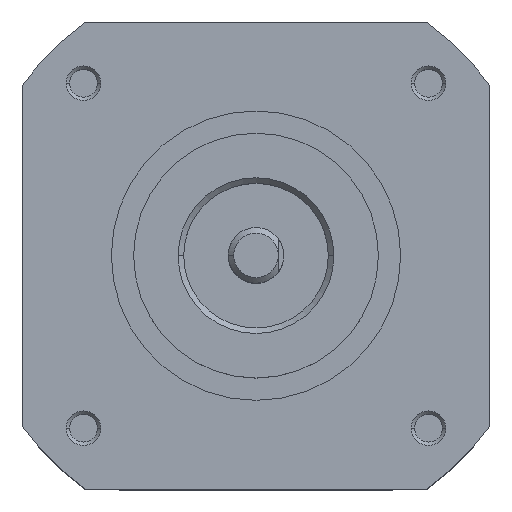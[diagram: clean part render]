
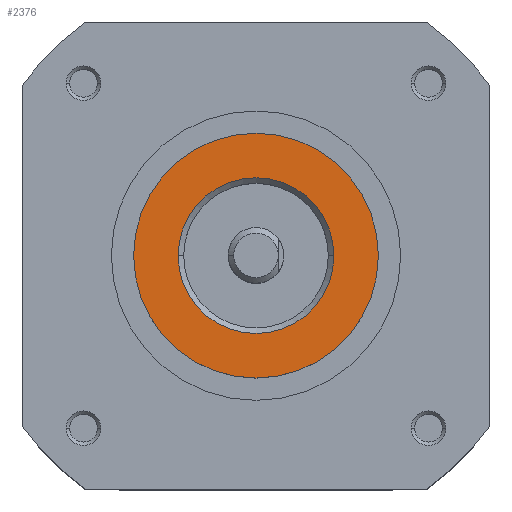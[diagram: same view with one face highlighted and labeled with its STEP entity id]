
A CAD part, top view. The second image highlights one B-rep face of the part: STEP entity #2376.
In plain terms, the highlighted planar face has unit normal (0, 0, 1).
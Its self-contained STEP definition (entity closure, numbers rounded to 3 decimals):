
#73 = FACE_BOUND ( 'NONE', #3976, .T. ) ;
#476 = CIRCLE ( 'NONE', #5988, 11. ) ;
#478 = CIRCLE ( 'NONE', #5991, 7. ) ;
#520 = CARTESIAN_POINT ( 'NONE',  ( -11., 0., 8. ) ) ;
#630 = CARTESIAN_POINT ( 'NONE',  ( -7., 0., 8. ) ) ;
#718 = CARTESIAN_POINT ( 'NONE',  ( 7., 0., 8. ) ) ;
#719 = CARTESIAN_POINT ( 'NONE',  ( 11., 0., 8. ) ) ;
#776 = DIRECTION ( 'NONE',  ( 1., 0., 0. ) ) ;
#777 = DIRECTION ( 'NONE',  ( 0., 0., -1. ) ) ;
#788 = CARTESIAN_POINT ( 'NONE',  ( 0., 0., 8. ) ) ;
#889 = ORIENTED_EDGE ( 'NONE', *, *, #5069, .T. ) ;
#890 = ORIENTED_EDGE ( 'NONE', *, *, #995, .T. ) ;
#891 = ORIENTED_EDGE ( 'NONE', *, *, #993, .T. ) ;
#892 = ORIENTED_EDGE ( 'NONE', *, *, #1047, .T. ) ;
#993 = EDGE_CURVE ( 'NONE', #5898, #5578, #476, .T. ) ;
#995 = EDGE_CURVE ( 'NONE', #5785, #5584, #478, .T. ) ;
#1047 = EDGE_CURVE ( 'NONE', #5578, #5898, #5268, .T. ) ;
#1466 = AXIS2_PLACEMENT_3D ( 'NONE', #788, #777, #776 ) ;
#2040 = DIRECTION ( 'NONE',  ( 1., 0., 0. ) ) ;
#2041 = DIRECTION ( 'NONE',  ( 0., 0., -1. ) ) ;
#2044 = CARTESIAN_POINT ( 'NONE',  ( 0., 0., 8. ) ) ;
#2069 = DIRECTION ( 'NONE',  ( 1., 0., 0. ) ) ;
#2070 = DIRECTION ( 'NONE',  ( 0., 0., 1. ) ) ;
#2077 = CARTESIAN_POINT ( 'NONE',  ( 0., 0., 8. ) ) ;
#2198 = DIRECTION ( 'NONE',  ( 1., 0., 0. ) ) ;
#2199 = DIRECTION ( 'NONE',  ( 0., 0., 1. ) ) ;
#2201 = CARTESIAN_POINT ( 'NONE',  ( 0., 0., 8. ) ) ;
#2376 = ADVANCED_FACE ( 'NONE', ( #73, #5413 ), #3724, .T. ) ;
#3705 = DIRECTION ( 'NONE',  ( 1., 0., 0. ) ) ;
#3708 = DIRECTION ( 'NONE',  ( 0., 0., 1. ) ) ;
#3712 = CARTESIAN_POINT ( 'NONE',  ( 0., 0., 8. ) ) ;
#3724 = PLANE ( 'NONE',  #6107 ) ;
#3976 = EDGE_LOOP ( 'NONE', ( #889, #890 ) ) ;
#3978 = EDGE_LOOP ( 'NONE', ( #891, #892 ) ) ;
#4574 = CIRCLE ( 'NONE', #1466, 7. ) ;
#5069 = EDGE_CURVE ( 'NONE', #5584, #5785, #4574, .T. ) ;
#5268 = CIRCLE ( 'NONE', #6014, 11. ) ;
#5413 = FACE_OUTER_BOUND ( 'NONE', #3978, .T. ) ;
#5578 = VERTEX_POINT ( 'NONE', #719 ) ;
#5584 = VERTEX_POINT ( 'NONE', #718 ) ;
#5785 = VERTEX_POINT ( 'NONE', #630 ) ;
#5898 = VERTEX_POINT ( 'NONE', #520 ) ;
#5988 = AXIS2_PLACEMENT_3D ( 'NONE', #2077, #2070, #2069 ) ;
#5991 = AXIS2_PLACEMENT_3D ( 'NONE', #2044, #2041, #2040 ) ;
#6014 = AXIS2_PLACEMENT_3D ( 'NONE', #2201, #2199, #2198 ) ;
#6107 = AXIS2_PLACEMENT_3D ( 'NONE', #3712, #3708, #3705 ) ;
